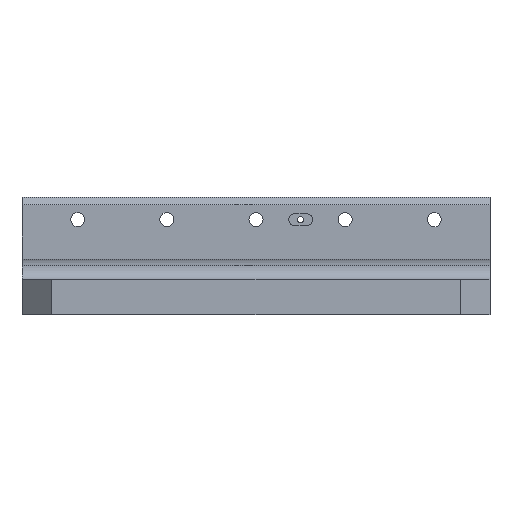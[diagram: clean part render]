
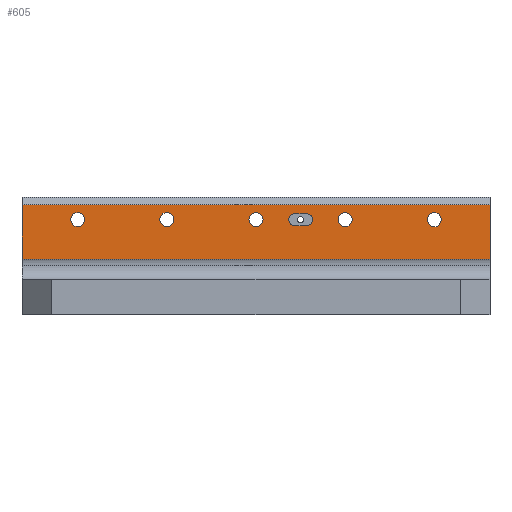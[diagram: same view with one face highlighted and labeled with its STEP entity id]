
A CAD part, front view. The second image highlights one B-rep face of the part: STEP entity #605.
In plain terms, the highlighted planar face has unit normal (0, -1, 0).
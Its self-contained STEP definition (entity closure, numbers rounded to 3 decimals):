
#605=ADVANCED_FACE('Solid.13',(#1389,#1390,#1391,#1392,#1393,#1394,#1395),#1396,.T.);
#1389=FACE_OUTER_BOUND('',#2387,.T.);
#1390=FACE_BOUND('',#2388,.T.);
#1391=FACE_BOUND('',#2389,.T.);
#1392=FACE_BOUND('',#2390,.T.);
#1393=FACE_BOUND('',#2391,.T.);
#1394=FACE_BOUND('',#2392,.T.);
#1395=FACE_BOUND('',#2393,.T.);
#1396=PLANE('',#2394);
#2387=EDGE_LOOP('',(#4235,#4236,#4237,#4238));
#2388=EDGE_LOOP('',(#4239,#4240,#4241,#4242,#4243,#4244));
#2389=EDGE_LOOP('',(#4245,#4246,#4247,#4248));
#2390=EDGE_LOOP('',(#4249,#4250,#4251,#4252));
#2391=EDGE_LOOP('',(#4253,#4254,#4255,#4256));
#2392=EDGE_LOOP('',(#4257,#4258,#4259,#4260));
#2393=EDGE_LOOP('',(#4261,#4262,#4263,#4264));
#2394=AXIS2_PLACEMENT_3D('',#4265,#4266,#4267);
#4235=ORIENTED_EDGE('',*,*,#6510,.T.);
#4236=ORIENTED_EDGE('',*,*,#6649,.T.);
#4237=ORIENTED_EDGE('',*,*,#6489,.F.);
#4238=ORIENTED_EDGE('',*,*,#6647,.F.);
#4239=ORIENTED_EDGE('',*,*,#6191,.F.);
#4240=ORIENTED_EDGE('',*,*,#6650,.F.);
#4241=ORIENTED_EDGE('',*,*,#6184,.F.);
#4242=ORIENTED_EDGE('',*,*,#6651,.F.);
#4243=ORIENTED_EDGE('',*,*,#6652,.F.);
#4244=ORIENTED_EDGE('',*,*,#6653,.F.);
#4245=ORIENTED_EDGE('',*,*,#6654,.F.);
#4246=ORIENTED_EDGE('',*,*,#6655,.F.);
#4247=ORIENTED_EDGE('',*,*,#6177,.F.);
#4248=ORIENTED_EDGE('',*,*,#6180,.F.);
#4249=ORIENTED_EDGE('',*,*,#6172,.F.);
#4250=ORIENTED_EDGE('',*,*,#6166,.F.);
#4251=ORIENTED_EDGE('',*,*,#6656,.F.);
#4252=ORIENTED_EDGE('',*,*,#6657,.F.);
#4253=ORIENTED_EDGE('',*,*,#6163,.F.);
#4254=ORIENTED_EDGE('',*,*,#6157,.F.);
#4255=ORIENTED_EDGE('',*,*,#6658,.F.);
#4256=ORIENTED_EDGE('',*,*,#6659,.F.);
#4257=ORIENTED_EDGE('',*,*,#6154,.F.);
#4258=ORIENTED_EDGE('',*,*,#6148,.F.);
#4259=ORIENTED_EDGE('',*,*,#6660,.F.);
#4260=ORIENTED_EDGE('',*,*,#6661,.F.);
#4261=ORIENTED_EDGE('',*,*,#6145,.F.);
#4262=ORIENTED_EDGE('',*,*,#6139,.F.);
#4263=ORIENTED_EDGE('',*,*,#6662,.F.);
#4264=ORIENTED_EDGE('',*,*,#6663,.F.);
#4265=CARTESIAN_POINT('',(0.0,40.0,79.0));
#4266=DIRECTION('',(0.0,-1.0,0.0));
#4267=DIRECTION('',(0.0,0.0,-1.0));
#6139=EDGE_CURVE('',#7459,#7462,#7463,.T.);
#6145=EDGE_CURVE('',#7462,#7469,#7472,.T.);
#6148=EDGE_CURVE('',#7474,#7477,#7478,.T.);
#6154=EDGE_CURVE('',#7477,#7484,#7487,.T.);
#6157=EDGE_CURVE('',#7489,#7492,#7493,.T.);
#6163=EDGE_CURVE('',#7492,#7499,#7502,.T.);
#6166=EDGE_CURVE('',#7504,#7507,#7508,.T.);
#6172=EDGE_CURVE('',#7507,#7514,#7517,.T.);
#6177=EDGE_CURVE('',#7524,#7520,#7526,.T.);
#6180=EDGE_CURVE('',#7528,#7524,#7531,.T.);
#6184=EDGE_CURVE('',#7534,#7537,#7538,.T.);
#6191=EDGE_CURVE('',#7548,#7544,#7550,.T.);
#6489=EDGE_CURVE('',#8041,#8043,#8044,.T.);
#6510=EDGE_CURVE('',#8076,#8074,#8077,.T.);
#6647=EDGE_CURVE('',#8076,#8041,#8292,.F.);
#6649=EDGE_CURVE('',#8074,#8043,#8294,.T.);
#6650=EDGE_CURVE('',#7537,#7548,#8295,.F.);
#6651=EDGE_CURVE('',#8296,#7534,#8297,.T.);
#6652=EDGE_CURVE('',#8298,#8296,#8299,.F.);
#6653=EDGE_CURVE('',#7544,#8298,#8300,.T.);
#6654=EDGE_CURVE('',#8301,#7528,#8302,.T.);
#6655=EDGE_CURVE('',#7520,#8301,#8303,.T.);
#6656=EDGE_CURVE('',#8304,#7504,#8305,.T.);
#6657=EDGE_CURVE('',#7514,#8304,#8306,.T.);
#6658=EDGE_CURVE('',#8307,#7489,#8308,.T.);
#6659=EDGE_CURVE('',#7499,#8307,#8309,.T.);
#6660=EDGE_CURVE('',#8310,#7474,#8311,.T.);
#6661=EDGE_CURVE('',#7484,#8310,#8312,.T.);
#6662=EDGE_CURVE('',#8313,#7459,#8314,.T.);
#6663=EDGE_CURVE('',#7469,#8313,#8315,.T.);
#7459=VERTEX_POINT('',#9304);
#7462=VERTEX_POINT('',#9308);
#7463=CIRCLE('',#9309,4.75);
#7469=VERTEX_POINT('',#9316);
#7472=CIRCLE('',#9320,4.75);
#7474=VERTEX_POINT('',#9322);
#7477=VERTEX_POINT('',#9326);
#7478=CIRCLE('',#9327,4.75);
#7484=VERTEX_POINT('',#9334);
#7487=CIRCLE('',#9338,4.75);
#7489=VERTEX_POINT('',#9340);
#7492=VERTEX_POINT('',#9344);
#7493=CIRCLE('',#9345,4.75);
#7499=VERTEX_POINT('',#9352);
#7502=CIRCLE('',#9356,4.75);
#7504=VERTEX_POINT('',#9358);
#7507=VERTEX_POINT('',#9362);
#7508=CIRCLE('',#9363,4.75);
#7514=VERTEX_POINT('',#9370);
#7517=CIRCLE('',#9374,4.75);
#7520=VERTEX_POINT('',#9377);
#7524=VERTEX_POINT('',#9382);
#7526=CIRCLE('',#9385,4.75);
#7528=VERTEX_POINT('',#9387);
#7531=CIRCLE('',#9391,4.75);
#7534=VERTEX_POINT('',#9394);
#7537=VERTEX_POINT('',#9398);
#7538=CIRCLE('',#9399,4.0);
#7544=VERTEX_POINT('',#9406);
#7548=VERTEX_POINT('',#9411);
#7550=CIRCLE('',#9414,4.0);
#8041=VERTEX_POINT('',#10047);
#8043=VERTEX_POINT('',#10050);
#8044=LINE('',#10051,#10052);
#8074=VERTEX_POINT('',#10096);
#8076=VERTEX_POINT('',#10098);
#8077=LINE('',#10099,#10100);
#8292=LINE('',#10468,#10469);
#8294=LINE('',#10471,#10472);
#8295=LINE('',#10473,#10474);
#8296=VERTEX_POINT('',#10475);
#8297=CIRCLE('',#10476,4.0);
#8298=VERTEX_POINT('',#10477);
#8299=LINE('',#10478,#10479);
#8300=CIRCLE('',#10480,4.0);
#8301=VERTEX_POINT('',#10481);
#8302=CIRCLE('',#10482,4.75);
#8303=CIRCLE('',#10483,4.75);
#8304=VERTEX_POINT('',#10484);
#8305=CIRCLE('',#10485,4.75);
#8306=CIRCLE('',#10486,4.75);
#8307=VERTEX_POINT('',#10487);
#8308=CIRCLE('',#10488,4.75);
#8309=CIRCLE('',#10489,4.75);
#8310=VERTEX_POINT('',#10490);
#8311=CIRCLE('',#10491,4.75);
#8312=CIRCLE('',#10492,4.75);
#8313=VERTEX_POINT('',#10493);
#8314=CIRCLE('',#10494,4.75);
#8315=CIRCLE('',#10495,4.75);
#9304=CARTESIAN_POINT('',(-124.75,40.0,64.0));
#9308=CARTESIAN_POINT('',(-124.169,40.0,61.723));
#9309=AXIS2_PLACEMENT_3D('',#11874,#11875,#11876);
#9316=CARTESIAN_POINT('',(-115.25,40.0,64.0));
#9320=AXIS2_PLACEMENT_3D('',#11885,#11886,#11887);
#9322=CARTESIAN_POINT('',(-64.75,40.0,64.0));
#9326=CARTESIAN_POINT('',(-64.169,40.0,61.723));
#9327=AXIS2_PLACEMENT_3D('',#11889,#11890,#11891);
#9334=CARTESIAN_POINT('',(-55.25,40.0,64.0));
#9338=AXIS2_PLACEMENT_3D('',#11900,#11901,#11902);
#9340=CARTESIAN_POINT('',(-4.75,40.0,64.0));
#9344=CARTESIAN_POINT('',(-4.169,40.0,61.723));
#9345=AXIS2_PLACEMENT_3D('',#11904,#11905,#11906);
#9352=CARTESIAN_POINT('',(4.75,40.0,64.0));
#9356=AXIS2_PLACEMENT_3D('',#11915,#11916,#11917);
#9358=CARTESIAN_POINT('',(55.25,40.0,64.0));
#9362=CARTESIAN_POINT('',(55.831,40.0,61.723));
#9363=AXIS2_PLACEMENT_3D('',#11919,#11920,#11921);
#9370=CARTESIAN_POINT('',(64.75,40.0,64.0));
#9374=AXIS2_PLACEMENT_3D('',#11930,#11931,#11932);
#9377=CARTESIAN_POINT('',(124.75,40.0,64.0));
#9382=CARTESIAN_POINT('',(115.831,40.0,61.723));
#9385=AXIS2_PLACEMENT_3D('',#11938,#11939,#11940);
#9387=CARTESIAN_POINT('',(115.25,40.0,64.0));
#9391=AXIS2_PLACEMENT_3D('',#11942,#11943,#11944);
#9394=CARTESIAN_POINT('',(22.0,40.0,64.0));
#9398=CARTESIAN_POINT('',(26.0,40.0,60.0));
#9399=AXIS2_PLACEMENT_3D('',#11949,#11950,#11951);
#9406=CARTESIAN_POINT('',(38.0,40.0,64.0));
#9411=CARTESIAN_POINT('',(34.0,40.0,60.0));
#9414=AXIS2_PLACEMENT_3D('',#11961,#11962,#11963);
#10047=CARTESIAN_POINT('',(157.5,40.0,74.0));
#10050=CARTESIAN_POINT('',(157.5,40.0,37.359));
#10051=CARTESIAN_POINT('',(157.5,40.0,55.679));
#10052=VECTOR('',#12446,1.0);
#10096=CARTESIAN_POINT('',(-157.5,40.0,37.359));
#10098=CARTESIAN_POINT('',(-157.5,40.0,74.0));
#10099=CARTESIAN_POINT('',(-157.5,40.0,55.679));
#10100=VECTOR('',#12467,1.0);
#10468=CARTESIAN_POINT('',(0.0,40.0,74.0));
#10469=VECTOR('',#12726,1.0);
#10471=CARTESIAN_POINT('',(0.0,40.0,37.359));
#10472=VECTOR('',#12727,1.0);
#10473=CARTESIAN_POINT('',(30.0,40.0,60.0));
#10474=VECTOR('',#12728,1.0);
#10475=CARTESIAN_POINT('',(26.0,40.0,68.0));
#10476=AXIS2_PLACEMENT_3D('',#12729,#12730,#12731);
#10477=CARTESIAN_POINT('',(34.0,40.0,68.0));
#10478=CARTESIAN_POINT('',(30.0,40.0,68.0));
#10479=VECTOR('',#12732,1.0);
#10480=AXIS2_PLACEMENT_3D('',#12733,#12734,#12735);
#10481=CARTESIAN_POINT('',(124.169,40.0,66.277));
#10482=AXIS2_PLACEMENT_3D('',#12736,#12737,#12738);
#10483=AXIS2_PLACEMENT_3D('',#12739,#12740,#12741);
#10484=CARTESIAN_POINT('',(64.169,40.0,66.277));
#10485=AXIS2_PLACEMENT_3D('',#12742,#12743,#12744);
#10486=AXIS2_PLACEMENT_3D('',#12745,#12746,#12747);
#10487=CARTESIAN_POINT('',(4.169,40.0,66.277));
#10488=AXIS2_PLACEMENT_3D('',#12748,#12749,#12750);
#10489=AXIS2_PLACEMENT_3D('',#12751,#12752,#12753);
#10490=CARTESIAN_POINT('',(-55.831,40.0,66.277));
#10491=AXIS2_PLACEMENT_3D('',#12754,#12755,#12756);
#10492=AXIS2_PLACEMENT_3D('',#12757,#12758,#12759);
#10493=CARTESIAN_POINT('',(-115.831,40.0,66.277));
#10494=AXIS2_PLACEMENT_3D('',#12760,#12761,#12762);
#10495=AXIS2_PLACEMENT_3D('',#12763,#12764,#12765);
#11874=CARTESIAN_POINT('',(-120.0,40.0,64.0));
#11875=DIRECTION('',(0.0,-1.0,0.0));
#11876=DIRECTION('',(0.0,0.0,-1.0));
#11885=CARTESIAN_POINT('',(-120.0,40.0,64.0));
#11886=DIRECTION('',(0.0,-1.0,0.0));
#11887=DIRECTION('',(0.0,0.0,-1.0));
#11889=CARTESIAN_POINT('',(-60.0,40.0,64.0));
#11890=DIRECTION('',(0.0,-1.0,0.0));
#11891=DIRECTION('',(0.0,0.0,-1.0));
#11900=CARTESIAN_POINT('',(-60.0,40.0,64.0));
#11901=DIRECTION('',(0.0,-1.0,0.0));
#11902=DIRECTION('',(0.0,0.0,-1.0));
#11904=CARTESIAN_POINT('',(0.0,40.0,64.0));
#11905=DIRECTION('',(0.0,-1.0,0.0));
#11906=DIRECTION('',(0.0,0.0,-1.0));
#11915=CARTESIAN_POINT('',(0.0,40.0,64.0));
#11916=DIRECTION('',(0.0,-1.0,0.0));
#11917=DIRECTION('',(0.0,0.0,-1.0));
#11919=CARTESIAN_POINT('',(60.0,40.0,64.0));
#11920=DIRECTION('',(0.0,-1.0,0.0));
#11921=DIRECTION('',(0.0,0.0,-1.0));
#11930=CARTESIAN_POINT('',(60.0,40.0,64.0));
#11931=DIRECTION('',(0.0,-1.0,0.0));
#11932=DIRECTION('',(0.0,0.0,-1.0));
#11938=CARTESIAN_POINT('',(120.0,40.0,64.0));
#11939=DIRECTION('',(0.0,-1.0,0.0));
#11940=DIRECTION('',(0.0,0.0,-1.0));
#11942=CARTESIAN_POINT('',(120.0,40.0,64.0));
#11943=DIRECTION('',(0.0,-1.0,0.0));
#11944=DIRECTION('',(0.0,0.0,-1.0));
#11949=CARTESIAN_POINT('',(26.0,40.0,64.0));
#11950=DIRECTION('',(0.0,-1.0,0.0));
#11951=DIRECTION('',(0.0,0.0,-1.0));
#11961=CARTESIAN_POINT('',(34.0,40.0,64.0));
#11962=DIRECTION('',(0.0,-1.0,0.0));
#11963=DIRECTION('',(0.0,0.0,-1.0));
#12446=DIRECTION('',(0.0,0.0,-1.0));
#12467=DIRECTION('',(0.0,0.0,-1.0));
#12726=DIRECTION('',(-1.0,0.0,0.0));
#12727=DIRECTION('',(1.0,0.0,0.0));
#12728=DIRECTION('',(-1.0,0.0,0.0));
#12729=CARTESIAN_POINT('',(26.0,40.0,64.0));
#12730=DIRECTION('',(0.0,-1.0,0.0));
#12731=DIRECTION('',(0.0,0.0,-1.0));
#12732=DIRECTION('',(1.0,0.0,0.0));
#12733=CARTESIAN_POINT('',(34.0,40.0,64.0));
#12734=DIRECTION('',(0.0,-1.0,0.0));
#12735=DIRECTION('',(0.0,0.0,-1.0));
#12736=CARTESIAN_POINT('',(120.0,40.0,64.0));
#12737=DIRECTION('',(0.0,-1.0,0.0));
#12738=DIRECTION('',(0.0,0.0,-1.0));
#12739=CARTESIAN_POINT('',(120.0,40.0,64.0));
#12740=DIRECTION('',(0.0,-1.0,0.0));
#12741=DIRECTION('',(0.0,0.0,-1.0));
#12742=CARTESIAN_POINT('',(60.0,40.0,64.0));
#12743=DIRECTION('',(0.0,-1.0,0.0));
#12744=DIRECTION('',(0.0,0.0,-1.0));
#12745=CARTESIAN_POINT('',(60.0,40.0,64.0));
#12746=DIRECTION('',(0.0,-1.0,0.0));
#12747=DIRECTION('',(0.0,0.0,-1.0));
#12748=CARTESIAN_POINT('',(0.0,40.0,64.0));
#12749=DIRECTION('',(0.0,-1.0,0.0));
#12750=DIRECTION('',(0.0,0.0,-1.0));
#12751=CARTESIAN_POINT('',(0.0,40.0,64.0));
#12752=DIRECTION('',(0.0,-1.0,0.0));
#12753=DIRECTION('',(0.0,0.0,-1.0));
#12754=CARTESIAN_POINT('',(-60.0,40.0,64.0));
#12755=DIRECTION('',(0.0,-1.0,0.0));
#12756=DIRECTION('',(0.0,0.0,-1.0));
#12757=CARTESIAN_POINT('',(-60.0,40.0,64.0));
#12758=DIRECTION('',(0.0,-1.0,0.0));
#12759=DIRECTION('',(0.0,0.0,-1.0));
#12760=CARTESIAN_POINT('',(-120.0,40.0,64.0));
#12761=DIRECTION('',(0.0,-1.0,0.0));
#12762=DIRECTION('',(0.0,0.0,-1.0));
#12763=CARTESIAN_POINT('',(-120.0,40.0,64.0));
#12764=DIRECTION('',(0.0,-1.0,0.0));
#12765=DIRECTION('',(0.0,0.0,-1.0));
